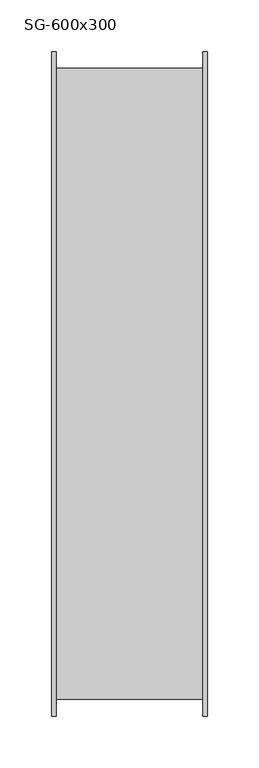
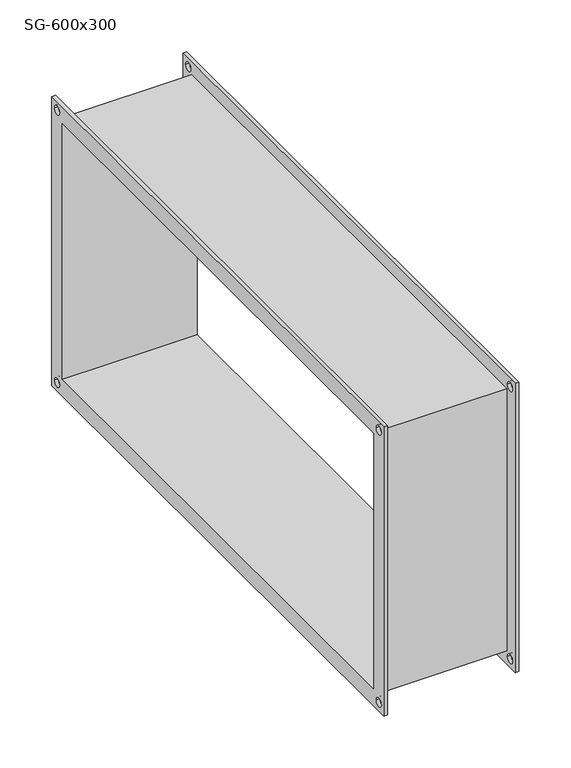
"""IFC4 building model written with IfcOpenShell, lengths in millimetres: damper geometry, СВ_ГибкаяВставка_КанальнаяПрямоугольная_200-1000_SG : SG-600x300."""

from ifc_helpers import new_model, si_unit, frame, origin, place, context, project, spatial, polyline, circle_curve, source, transform, mapped, element, save
from ifc_brep_helpers import plane_surface, revolved_surface, advanced_brep


def sg_600x300_c0da051b(model_context):
    return source(origin(), model_context, "Body", "AdvancedBrep", [
        advanced_brep(
        [(71.0, -304.0, 154.0), (-71.0, -304.0, 154.0), (-71.0, -304.0, -154.0), (71.0, -304.0, -154.0), (-71.0, 304.0, -154.0), (71.0, 304.0, -154.0), (-71.0, 304.0, 154.0), (71.0, 304.0, 154.0), (-75.0, -320.0, 170.0), (-75.0, 320.0, 170.0), (-75.0, 320.0, -170.0), (-75.0, -320.0, -170.0), (-75.0, -300.0, 150.0), (-75.0, -300.0, -150.0), (-75.0, 300.0, -150.0), (-75.0, 300.0, 150.0), (-75.0, 305.0, 160.0), (-75.0, 315.0, 160.0), (-75.0, 305.0, -160.0), (-75.0, 315.0, -160.0), (-75.0, -315.0, 160.0), (-75.0, -305.0, 160.0), (-75.0, -315.0, -160.0), (-75.0, -305.0, -160.0), (-71.0, -320.0, 170.0), (-71.0, -320.0, -170.0), (-71.0, 320.0, -170.0), (-71.0, 320.0, 170.0), (-71.0, 315.0, 160.0), (-71.0, 305.0, 160.0), (-71.0, 315.0, -160.0), (-71.0, 305.0, -160.0), (-71.0, -305.0, 160.0), (-71.0, -315.0, 160.0), (-71.0, -305.0, -160.0), (-71.0, -315.0, -160.0), (71.0, 320.0, 170.0), (71.0, 320.0, -170.0), (71.0, -320.0, -170.0), (71.0, -320.0, 170.0), (71.0, 305.0, 160.0), (71.0, 315.0, 160.0), (71.0, 305.0, -160.0), (71.0, 315.0, -160.0), (71.0, -315.0, 160.0), (71.0, -305.0, 160.0), (71.0, -315.0, -160.0), (71.0, -305.0, -160.0), (75.0, 320.0, 170.0), (75.0, -320.0, 170.0), (75.0, -320.0, -170.0), (75.0, 320.0, -170.0), (75.0, 300.0, 150.0), (75.0, 300.0, -150.0), (75.0, -300.0, -150.0), (75.0, -300.0, 150.0), (75.0, 315.0, 160.0), (75.0, 305.0, 160.0), (75.0, 315.0, -160.0), (75.0, 305.0, -160.0), (75.0, -305.0, 160.0), (75.0, -315.0, 160.0), (75.0, -305.0, -160.0), (75.0, -315.0, -160.0)],
        [
            (0, 1),
            (1, 2),
            (2, 3),
            (3, 0),
            (2, 4),
            (4, 5),
            (5, 3),
            (4, 6),
            (6, 7),
            (7, 5),
            (0, 7),
            (6, 1),
            (8, 9),
            (9, 10),
            (10, 11),
            (11, 8),
            (12, 13),
            (13, 14),
            (14, 15),
            (15, 12),
            (16, 17, circle_curve(frame((-75.0, 310.0, 160.0), z_axis=(1.0, 0.0, 0.0), x_axis=(0.0, 1.0, 0.0)), 5.0)),
            (17, 16, circle_curve(frame((-75.0, 310.0, 160.0), z_axis=(1.0, 0.0, 0.0), x_axis=(0.0, 1.0, 0.0)), 5.0)),
            (18, 19, circle_curve(frame((-75.0, 310.0, -160.0), z_axis=(1.0, 0.0, 0.0), x_axis=(0.0, 1.0, 0.0)), 5.0)),
            (19, 18, circle_curve(frame((-75.0, 310.0, -160.0), z_axis=(1.0, 0.0, 0.0), x_axis=(0.0, 1.0, 0.0)), 5.0)),
            (20, 21, circle_curve(frame((-75.0, -310.0, 160.0), z_axis=(1.0, 0.0, 0.0), x_axis=(0.0, 1.0, 0.0)), 5.0)),
            (21, 20, circle_curve(frame((-75.0, -310.0, 160.0), z_axis=(1.0, 0.0, 0.0), x_axis=(0.0, 1.0, 0.0)), 5.0)),
            (22, 23, circle_curve(frame((-75.0, -310.0, -160.0), z_axis=(1.0, 0.0, 0.0), x_axis=(0.0, 1.0, 0.0)), 5.0)),
            (23, 22, circle_curve(frame((-75.0, -310.0, -160.0), z_axis=(1.0, 0.0, 0.0), x_axis=(0.0, 1.0, 0.0)), 5.0)),
            (24, 25),
            (25, 26),
            (26, 27),
            (27, 24),
            (28, 29, circle_curve(frame((-71.0, 310.0, 160.0), z_axis=(-1.0, 0.0, 0.0), x_axis=(0.0, 1.0, 0.0)), 5.0)),
            (29, 28, circle_curve(frame((-71.0, 310.0, 160.0), z_axis=(-1.0, 0.0, 0.0), x_axis=(0.0, 1.0, 0.0)), 5.0)),
            (30, 31, circle_curve(frame((-71.0, 310.0, -160.0), z_axis=(-1.0, 0.0, 0.0), x_axis=(0.0, 1.0, 0.0)), 5.0)),
            (31, 30, circle_curve(frame((-71.0, 310.0, -160.0), z_axis=(-1.0, 0.0, 0.0), x_axis=(0.0, 1.0, 0.0)), 5.0)),
            (32, 33, circle_curve(frame((-71.0, -310.0, 160.0), z_axis=(-1.0, 0.0, 0.0), x_axis=(0.0, 1.0, 0.0)), 5.0)),
            (33, 32, circle_curve(frame((-71.0, -310.0, 160.0), z_axis=(-1.0, 0.0, 0.0), x_axis=(0.0, 1.0, 0.0)), 5.0)),
            (34, 35, circle_curve(frame((-71.0, -310.0, -160.0), z_axis=(-1.0, 0.0, 0.0), x_axis=(0.0, 1.0, 0.0)), 5.0)),
            (35, 34, circle_curve(frame((-71.0, -310.0, -160.0), z_axis=(-1.0, 0.0, 0.0), x_axis=(0.0, 1.0, 0.0)), 5.0)),
            (11, 25),
            (24, 8),
            (10, 26),
            (9, 27),
            (36, 37),
            (37, 38),
            (38, 39),
            (39, 36),
            (40, 41, circle_curve(frame((71.0, 310.0, 160.0), z_axis=(1.0, 0.0, 0.0), x_axis=(0.0, 1.0, 0.0)), 5.0)),
            (41, 40, circle_curve(frame((71.0, 310.0, 160.0), z_axis=(1.0, 0.0, 0.0), x_axis=(0.0, 1.0, 0.0)), 5.0)),
            (42, 43, circle_curve(frame((71.0, 310.0, -160.0), z_axis=(1.0, 0.0, 0.0), x_axis=(0.0, 1.0, 0.0)), 5.0)),
            (43, 42, circle_curve(frame((71.0, 310.0, -160.0), z_axis=(1.0, 0.0, 0.0), x_axis=(0.0, 1.0, 0.0)), 5.0)),
            (44, 45, circle_curve(frame((71.0, -310.0, 160.0), z_axis=(1.0, 0.0, 0.0), x_axis=(0.0, 1.0, 0.0)), 5.0)),
            (45, 44, circle_curve(frame((71.0, -310.0, 160.0), z_axis=(1.0, 0.0, 0.0), x_axis=(0.0, 1.0, 0.0)), 5.0)),
            (46, 47, circle_curve(frame((71.0, -310.0, -160.0), z_axis=(1.0, 0.0, 0.0), x_axis=(0.0, 1.0, 0.0)), 5.0)),
            (47, 46, circle_curve(frame((71.0, -310.0, -160.0), z_axis=(1.0, 0.0, 0.0), x_axis=(0.0, 1.0, 0.0)), 5.0)),
            (48, 49),
            (49, 50),
            (50, 51),
            (51, 48),
            (52, 53),
            (53, 54),
            (54, 55),
            (55, 52),
            (56, 57, circle_curve(frame((75.0, 310.0, 160.0), z_axis=(-1.0, 0.0, 0.0), x_axis=(0.0, 1.0, 0.0)), 5.0)),
            (57, 56, circle_curve(frame((75.0, 310.0, 160.0), z_axis=(-1.0, 0.0, 0.0), x_axis=(0.0, 1.0, 0.0)), 5.0)),
            (58, 59, circle_curve(frame((75.0, 310.0, -160.0), z_axis=(-1.0, 0.0, 0.0), x_axis=(0.0, 1.0, 0.0)), 5.0)),
            (59, 58, circle_curve(frame((75.0, 310.0, -160.0), z_axis=(-1.0, 0.0, 0.0), x_axis=(0.0, 1.0, 0.0)), 5.0)),
            (60, 61, circle_curve(frame((75.0, -310.0, 160.0), z_axis=(-1.0, 0.0, 0.0), x_axis=(0.0, 1.0, 0.0)), 5.0)),
            (61, 60, circle_curve(frame((75.0, -310.0, 160.0), z_axis=(-1.0, 0.0, 0.0), x_axis=(0.0, 1.0, 0.0)), 5.0)),
            (62, 63, circle_curve(frame((75.0, -310.0, -160.0), z_axis=(-1.0, 0.0, 0.0), x_axis=(0.0, 1.0, 0.0)), 5.0)),
            (63, 62, circle_curve(frame((75.0, -310.0, -160.0), z_axis=(-1.0, 0.0, 0.0), x_axis=(0.0, 1.0, 0.0)), 5.0)),
            (39, 49),
            (48, 36),
            (38, 50),
            (37, 51),
            (15, 52),
            (55, 12),
            (14, 53),
            (13, 54),
            (16, 29),
            (28, 17),
            (40, 57),
            (56, 41),
            (18, 31),
            (30, 19),
            (42, 59),
            (58, 43),
            (20, 33),
            (32, 21),
            (44, 61),
            (60, 45),
            (22, 35),
            (34, 23),
            (46, 63),
            (62, 47),
        ],
        [
            plane_surface(frame((71.0, -304.0, 154.0), z_axis=(0.0, -1.0, 0.0), x_axis=(-1.0, 0.0, 0.0))),
            plane_surface(frame((71.0, -304.0, -154.0), z_axis=(0.0, 0.0, -1.0), x_axis=(-1.0, 0.0, 0.0))),
            plane_surface(frame((71.0, 304.0, -154.0), z_axis=(0.0, 1.0, 0.0), x_axis=(-1.0, 0.0, 0.0))),
            plane_surface(frame((71.0, 304.0, 154.0), z_axis=(0.0, 0.0, 1.0), x_axis=(-1.0, 0.0, 0.0))),
            plane_surface(frame((-75.0, -320.0, 170.0), z_axis=(-1.0, 0.0, 0.0), x_axis=(0.0, 0.0, 1.0))),
            plane_surface(frame((-71.0, -320.0, 170.0), z_axis=(1.0, 0.0, 0.0), x_axis=(0.0, 0.0, -1.0))),
            plane_surface(frame((-71.0, -320.0, 170.0), z_axis=(0.0, -1.0, 0.0), x_axis=(-1.0, 0.0, 0.0))),
            plane_surface(frame((-71.0, -320.0, -170.0), z_axis=(0.0, 0.0, -1.0), x_axis=(-1.0, 0.0, 0.0))),
            plane_surface(frame((-71.0, 320.0, -170.0), z_axis=(0.0, 1.0, 0.0), x_axis=(-1.0, 0.0, 0.0))),
            plane_surface(frame((-71.0, 320.0, 170.0), z_axis=(0.0, 0.0, 1.0), x_axis=(-1.0, 0.0, 0.0))),
            plane_surface(frame((71.0, 300.0, -150.0), z_axis=(-1.0, 0.0, 0.0), x_axis=(0.0, 0.0, 1.0))),
            plane_surface(frame((75.0, 300.0, -150.0), z_axis=(1.0, 0.0, 0.0), x_axis=(0.0, 0.0, -1.0))),
            plane_surface(frame((75.0, 320.0, 170.0), z_axis=(0.0, 0.0, 1.0), x_axis=(-1.0, 0.0, 0.0))),
            plane_surface(frame((75.0, -320.0, 170.0), z_axis=(0.0, -1.0, 0.0), x_axis=(-1.0, 0.0, 0.0))),
            plane_surface(frame((75.0, -320.0, -170.0), z_axis=(0.0, 0.0, -1.0), x_axis=(-1.0, 0.0, 0.0))),
            plane_surface(frame((75.0, 320.0, -170.0), z_axis=(0.0, 1.0, 0.0), x_axis=(-1.0, 0.0, 0.0))),
            plane_surface(frame((-71.0, -300.0, 150.0), z_axis=(0.0, 0.0, -1.0), x_axis=(-1.0, 0.0, 0.0))),
            plane_surface(frame((-71.0, 300.0, 150.0), z_axis=(0.0, -1.0, 0.0), x_axis=(-1.0, 0.0, 0.0))),
            plane_surface(frame((-71.0, 300.0, -150.0), z_axis=(0.0, 0.0, 1.0), x_axis=(-1.0, 0.0, 0.0))),
            plane_surface(frame((-71.0, -300.0, -150.0), z_axis=(0.0, 1.0, 0.0), x_axis=(-1.0, 0.0, 0.0))),
            revolved_surface(polyline([(-71.0, 315.0, 160.0), (-75.0, 315.0, 160.0)]), (-75.0, 310.0, 160.0), (1.0, 0.0, 0.0)),
            revolved_surface(polyline([(75.0, 315.0, 160.0), (71.0, 315.0, 160.0)]), (-75.0, 310.0, 160.0), (1.0, 0.0, 0.0)),
            revolved_surface(polyline([(-71.0, 315.0, -160.0), (-75.0, 315.0, -160.0)]), (0.0, 310.0, -160.0), (1.0, 0.0, 0.0)),
            revolved_surface(polyline([(75.0, 315.0, -160.0), (71.0, 315.0, -160.0)]), (0.0, 310.0, -160.0), (1.0, 0.0, 0.0)),
            revolved_surface(polyline([(-71.0, -305.0, 160.0), (-75.0, -305.0, 160.0)]), (0.0, -310.0, 160.0), (1.0, 0.0, 0.0)),
            revolved_surface(polyline([(75.0, -305.0, 160.0), (71.0, -305.0, 160.0)]), (0.0, -310.0, 160.0), (1.0, 0.0, 0.0)),
            revolved_surface(polyline([(-71.0, -305.0, -160.0), (-75.0, -305.0, -160.0)]), (0.0, -310.0, -160.0), (1.0, 0.0, 0.0)),
            revolved_surface(polyline([(75.0, -305.0, -160.0), (71.0, -305.0, -160.0)]), (0.0, -310.0, -160.0), (1.0, 0.0, 0.0)),
        ],
        [
            (0, [[1, 2, 3, 4]]),
            (1, [[-3, 5, 6, 7]]),
            (2, [[-6, 8, 9, 10]]),
            (3, [[-1, 11, -9, 12]]),
            (4, [[13, 14, 15, 16], [17, 18, 19, 20], [21, 22], [23, 24], [25, 26], [27, 28]]),
            (5, [[29, 30, 31, 32], [-2, -12, -8, -5], [33, 34], [35, 36], [37, 38], [39, 40]]),
            (6, [[-16, 41, -29, 42]]),
            (7, [[-15, 43, -30, -41]]),
            (8, [[-14, 44, -31, -43]]),
            (9, [[-13, -42, -32, -44]]),
            (10, [[45, 46, 47, 48], [-4, -7, -10, -11], [49, 50], [51, 52], [53, 54], [55, 56]]),
            (11, [[57, 58, 59, 60], [61, 62, 63, 64], [65, 66], [67, 68], [69, 70], [71, 72]]),
            (12, [[-48, 73, -57, 74]]),
            (13, [[-47, 75, -58, -73]]),
            (14, [[-46, 76, -59, -75]]),
            (15, [[-45, -74, -60, -76]]),
            (16, [[-20, 77, -64, 78]]),
            (17, [[-77, -19, 79, -61]]),
            (18, [[-79, -18, 80, -62]]),
            (19, [[-80, -17, -78, -63]]),
            (20, [[81, -33, 82, -21]]),
            (21, [[83, -65, 84, -49]]),
            (20, [[-81, -22, -82, -34]]),
            (21, [[-83, -50, -84, -66]]),
            (22, [[85, -35, 86, -23]]),
            (23, [[87, -67, 88, -51]]),
            (22, [[-85, -24, -86, -36]]),
            (23, [[-87, -52, -88, -68]]),
            (24, [[89, -37, 90, -25]]),
            (25, [[91, -69, 92, -53]]),
            (24, [[-89, -26, -90, -38]]),
            (25, [[-91, -54, -92, -70]]),
            (26, [[93, -39, 94, -27]]),
            (27, [[95, -71, 96, -55]]),
            (26, [[-93, -28, -94, -40]]),
            (27, [[-95, -56, -96, -72]]),
        ],
    ),
    ])


if __name__ == "__main__":
    model = new_model("IFC4")
    model_context = context("Model", 3, world=origin())
    ifc_project = project(units=[si_unit("LENGTHUNIT", "METRE", prefix="MILLI")], contexts=[model_context])
    site = spatial("IfcSite", under=ifc_project)
    building = spatial("IfcBuilding", under=site)
    placement = place(None, origin())
    sg_600x300_shape = sg_600x300_c0da051b(model_context)
    element("IfcDamper", 1, ObjectType="СВ_ГибкаяВставка_КанальнаяПрямоугольная_200-1000_SG : SG-600x300", at=placement, inside=building, context=model_context, shape_type="MappedRepresentation", body=[
        mapped(sg_600x300_shape, transform((0.0, 0.0, 0.0), x_axis=(1.0, 0.0, 0.0), y_axis=(0.0, 1.0, 0.0), z_axis=(0.0, 0.0, 1.0))),
    ])
    save(model, "model.ifc")
